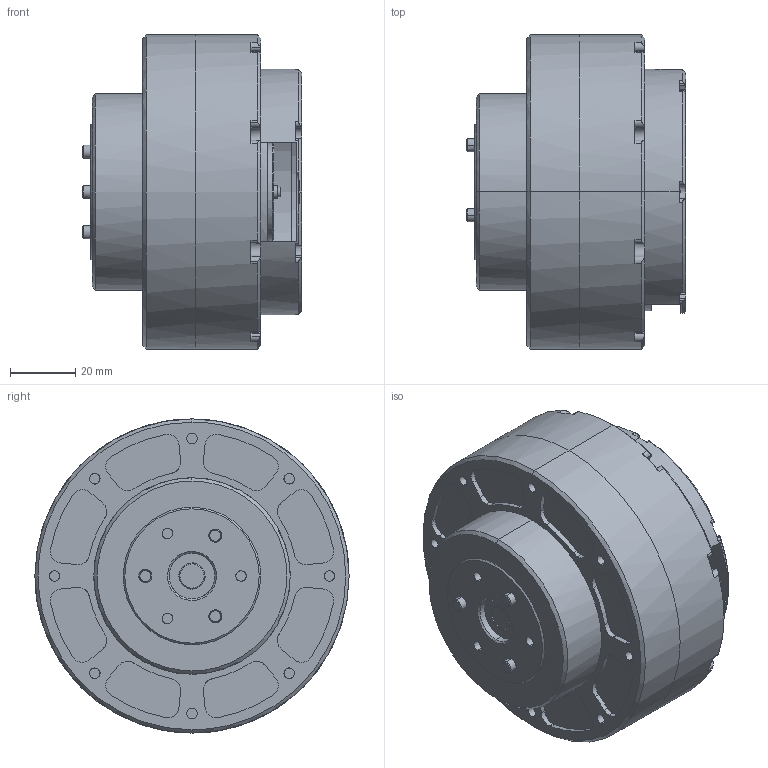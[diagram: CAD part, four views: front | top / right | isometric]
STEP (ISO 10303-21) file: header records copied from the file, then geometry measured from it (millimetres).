
FILE_DESCRIPTION (( 'STEP AP203' ), '1' );
FILE_NAME ('8115-36假蚾芞3D.STEP', '2022-04-24T10:39:20', ( '' ), ( '' ), 'SwSTEP 2.0', 'SolidWorks 2015', '' );
FILE_SCHEMA (( 'CONFIG_CONTROL_DESIGN' ));
Length unit declared in the file: millimetre
Products named in the file (1): 8115-36假蚾芞3D
Bounding box: 67 x 96 x 96 mm (x, y, z)
Surface area: 46348.4 mm2 (no closed solid volume)
Topology: 0 solids, 3 shells, 554 faces, 1560 edges, 1081 vertices
Faces by surface type: cylinder 367, plane 147, cone 40
Entity records: 30690 total; most frequent: CARTESIAN_POINT 17684, ORIENTED_EDGE 3118, DIRECTION 1964, EDGE_CURVE 1560, VERTEX_POINT 1081, B_SPLINE_CURVE_WITH_KNOTS 855, AXIS2_PLACEMENT_3D 704, EDGE_LOOP 636
